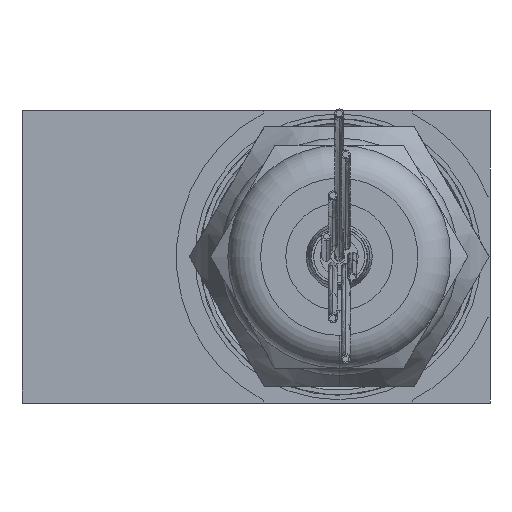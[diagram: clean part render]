
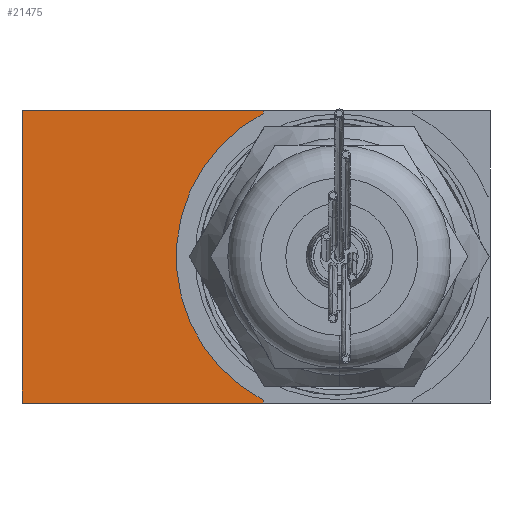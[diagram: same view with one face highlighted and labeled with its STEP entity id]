
A CAD part, left-side view. The second image highlights one B-rep face of the part: STEP entity #21475.
In plain terms, the highlighted planar face has unit normal (-1, 0, 0).
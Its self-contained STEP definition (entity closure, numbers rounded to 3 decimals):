
#304 = LINE ( 'NONE', #14751, #44494 ) ;
#694 = VECTOR ( 'NONE', #9919, 1000. ) ;
#839 = EDGE_CURVE ( 'NONE', #47195, #8332, #7233, .T. ) ;
#840 = DIRECTION ( 'NONE',  ( 0., -1., 0. ) ) ;
#2231 = CARTESIAN_POINT ( 'NONE',  ( -75., -0.617, 12.5 ) ) ;
#2257 = EDGE_CURVE ( 'NONE', #24958, #9516, #47541, .T. ) ;
#2875 = PLANE ( 'NONE',  #39200 ) ;
#3599 = FACE_OUTER_BOUND ( 'NONE', #38612, .T. ) ;
#6426 = CARTESIAN_POINT ( 'NONE',  ( -75., -0.617, -12.252 ) ) ;
#6460 = CARTESIAN_POINT ( 'NONE',  ( -75., -7., 0. ) ) ;
#6811 = ORIENTED_EDGE ( 'NONE', *, *, #15101, .F. ) ;
#7233 = CIRCLE ( 'NONE', #40838, 13.815 ) ;
#8332 = VERTEX_POINT ( 'NONE', #38907 ) ;
#9516 = VERTEX_POINT ( 'NONE', #31318 ) ;
#9919 = DIRECTION ( 'NONE',  ( 0., 0., -1. ) ) ;
#10143 = DIRECTION ( 'NONE',  ( 0., 0., -1. ) ) ;
#10318 = DIRECTION ( 'NONE',  ( 0., -1., 0. ) ) ;
#13110 = LINE ( 'NONE', #28036, #36471 ) ;
#14751 = CARTESIAN_POINT ( 'NONE',  ( -75., -0.617, 12.748 ) ) ;
#15101 = EDGE_CURVE ( 'NONE', #40287, #47625, #15526, .T. ) ;
#15526 = LINE ( 'NONE', #19192, #29292 ) ;
#15796 = ORIENTED_EDGE ( 'NONE', *, *, #47401, .F. ) ;
#19192 = CARTESIAN_POINT ( 'NONE',  ( -75., -20., 12.5 ) ) ;
#21233 = CARTESIAN_POINT ( 'NONE',  ( -75., -20., 12.5 ) ) ;
#21475 = ADVANCED_FACE ( 'NONE', ( #3599 ), #2875, .F. ) ;
#21647 = DIRECTION ( 'NONE',  ( 0., 0., -1. ) ) ;
#21895 = ORIENTED_EDGE ( 'NONE', *, *, #46903, .T. ) ;
#22130 = DIRECTION ( 'NONE',  ( 1., 0., 0. ) ) ;
#22500 = CARTESIAN_POINT ( 'NONE',  ( -75., 20., 12.5 ) ) ;
#23836 = CARTESIAN_POINT ( 'NONE',  ( -75., 20., -12.5 ) ) ;
#24958 = VERTEX_POINT ( 'NONE', #23836 ) ;
#28036 = CARTESIAN_POINT ( 'NONE',  ( -75., -0.617, -12.748 ) ) ;
#28528 = CARTESIAN_POINT ( 'NONE',  ( -75., 20., 12.5 ) ) ;
#29292 = VECTOR ( 'NONE', #840, 1000. ) ;
#29546 = DIRECTION ( 'NONE',  ( 1., 0., 0. ) ) ;
#31318 = CARTESIAN_POINT ( 'NONE',  ( -75., -0.617, -12.5 ) ) ;
#32601 = VECTOR ( 'NONE', #10318, 1000. ) ;
#32623 = CARTESIAN_POINT ( 'NONE',  ( -75., -20., -12.5 ) ) ;
#36471 = VECTOR ( 'NONE', #10143, 1000. ) ;
#37520 = DIRECTION ( 'NONE',  ( 0., 0., -1. ) ) ;
#38361 = ORIENTED_EDGE ( 'NONE', *, *, #839, .T. ) ;
#38612 = EDGE_LOOP ( 'NONE', ( #38361, #15796, #6811, #21895, #44611, #46064 ) ) ;
#38907 = CARTESIAN_POINT ( 'NONE',  ( -75., -0.617, 12.252 ) ) ;
#39200 = AXIS2_PLACEMENT_3D ( 'NONE', #21233, #29546, #44474 ) ;
#40287 = VERTEX_POINT ( 'NONE', #22500 ) ;
#40838 = AXIS2_PLACEMENT_3D ( 'NONE', #6460, #22130, #21647 ) ;
#41073 = EDGE_CURVE ( 'NONE', #47195, #9516, #13110, .T. ) ;
#44474 = DIRECTION ( 'NONE',  ( 0., 0., -1. ) ) ;
#44494 = VECTOR ( 'NONE', #37520, 1000. ) ;
#44611 = ORIENTED_EDGE ( 'NONE', *, *, #2257, .T. ) ;
#46064 = ORIENTED_EDGE ( 'NONE', *, *, #41073, .F. ) ;
#46903 = EDGE_CURVE ( 'NONE', #40287, #24958, #47366, .T. ) ;
#47195 = VERTEX_POINT ( 'NONE', #6426 ) ;
#47366 = LINE ( 'NONE', #28528, #694 ) ;
#47401 = EDGE_CURVE ( 'NONE', #47625, #8332, #304, .T. ) ;
#47541 = LINE ( 'NONE', #32623, #32601 ) ;
#47625 = VERTEX_POINT ( 'NONE', #2231 ) ;
